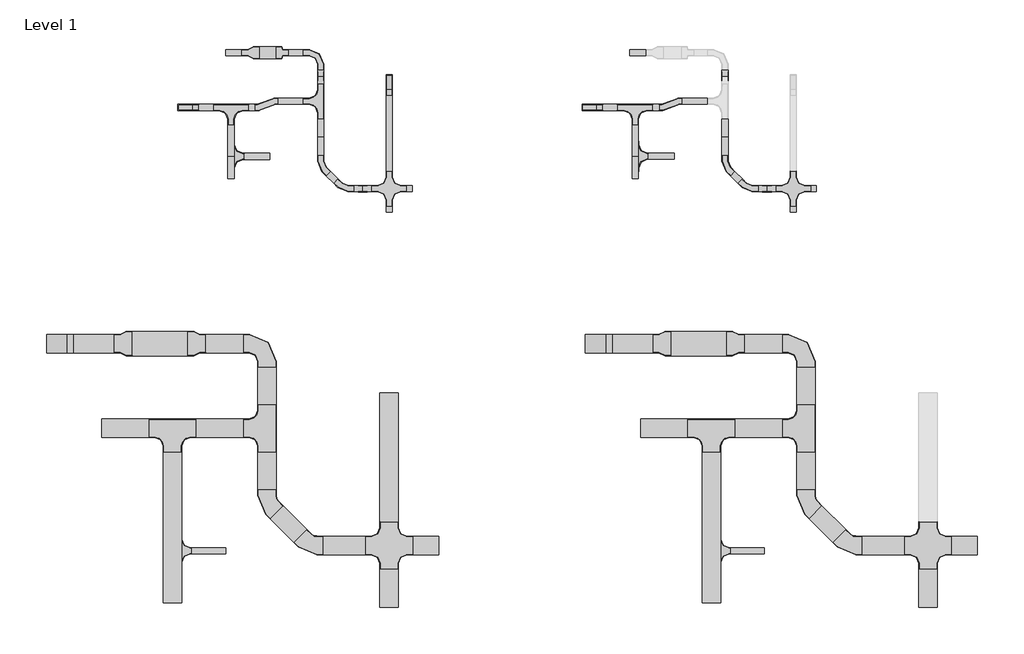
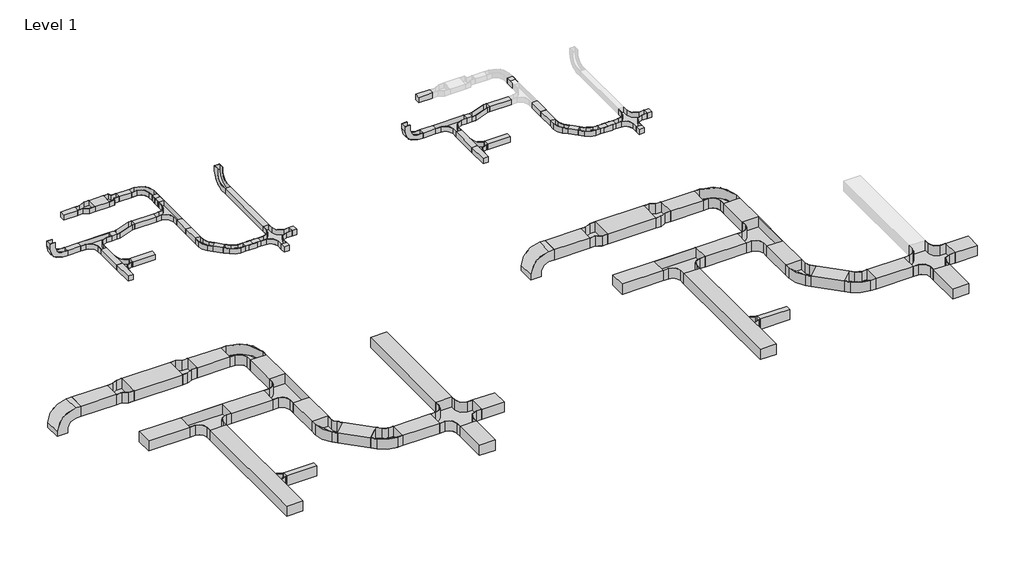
# One storey, part 1 of 7: 61 cable carrier segments, 43 cable carrier fittings.
"""IFC4 building model written with IfcOpenShell, lengths in millimetres."""

from ifc_helpers import new_model, si_unit, frame, origin, origin_with_axes, place, context, project, spatial, polyline, outline, extrude, transform, mapped, element, save
from components import cable_carrier_fitting_aaacfa07, cable_carrier_fitting_b06f5239, cable_carrier_fitting_143960b7, cable_carrier_fitting_e87cdf85, cable_carrier_fitting_c2d22de5, cable_carrier_fitting_7e9f8960, cable_carrier_fitting_43fa0a0a, cable_carrier_fitting_3771e234, cable_carrier_fitting_1d79b922, cable_carrier_fitting_d4cb8d73, cable_carrier_fitting_69659a00, cable_carrier_fitting_ed02f7b7, cable_carrier_fitting_6664680e, cable_carrier_fitting_91e97af7, cable_carrier_fitting_eaf42c59, cable_carrier_fitting_cb4cf4fc, cable_carrier_fitting_d9c8c3b4, cable_carrier_fitting_4019ad99, cable_carrier_fitting_a17deca8, cable_carrier_fitting_0d8af748, rkh100_6825da00

model = new_model("IFC4")

# Units and contexts
model_context = context("Model", 3, world=origin())
ifc_project = project(units=[si_unit("LENGTHUNIT", "METRE", prefix="MILLI")], contexts=[model_context])

# Site, building, storey
site = spatial("IfcSite", under=ifc_project)
building = spatial("IfcBuilding", under=site)
storey = spatial("IfcBuildingStorey", under=building, Name="Level 1", Elevation=0.0)

# Cable carrier fittings
placement = place(None, origin())
cable_carrier_fitting_shape = cable_carrier_fitting_aaacfa07(model_context)
element("IfcCableCarrierFitting", 1, ObjectType="BAKS_Plate_connector : LZCH100", at=placement, inside=storey, context=model_context, shape_type="MappedRepresentation", body=[
    mapped(cable_carrier_fitting_shape, transform((-17370.1659964, 14949.0221963, 50.0), x_axis=(0.0, -1.0, 0.0), y_axis=(1.0, 0.0, 0.0), z_axis=(0.0, 0.0, 1.0))),
])
element("IfcCableCarrierFitting", 2, ObjectType="BAKS_Plate_connector : LZCH100", at=placement, inside=storey, context=model_context, shape_type="MappedRepresentation", body=[
    mapped(cable_carrier_fitting_shape, transform((-16681.6917019, 13108.6669458, 50.0), x_axis=(-1.0, 0.0, 0.0), y_axis=(0.0, -1.0, 0.0), z_axis=(0.0, 0.0, 1.0))),
])
element("IfcCableCarrierFitting", 3, ObjectType="BAKS_Plate_connector : LZCH100", at=placement, inside=storey, context=model_context, shape_type="MappedRepresentation", body=[
    mapped(cable_carrier_fitting_shape, transform((-10770.1659964, 14949.0221963, 50.0), x_axis=(0.0, -1.0, 0.0), y_axis=(1.0, 0.0, 0.0), z_axis=(0.0, 0.0, 1.0))),
])
element("IfcCableCarrierFitting", 4, ObjectType="BAKS_Plate_connector : LZCH100", at=placement, inside=storey, context=model_context, shape_type="MappedRepresentation", body=[
    mapped(cable_carrier_fitting_shape, transform((-10081.6917019, 13108.6669458, 50.0), x_axis=(-1.0, 0.0, 0.0), y_axis=(0.0, -1.0, 0.0), z_axis=(0.0, 0.0, 1.0))),
])
cable_carrier_fitting_2_shape = cable_carrier_fitting_b06f5239(model_context)
element("IfcCableCarrierFitting", 5, ObjectType="BAKS_Tee_TKZD : TKZDPH200", at=placement, inside=storey, context=model_context, shape_type="MappedRepresentation", body=[
    mapped(cable_carrier_fitting_2_shape, transform((-19642.1461338, 7190.6717205, 0.0), x_axis=(0.0, 1.0, 0.0), y_axis=(-1.0, 0.0, 0.0), z_axis=(0.0, 0.0, 1.0))),
])
element("IfcCableCarrierFitting", 6, ObjectType="BAKS_Tee_TKZD : TKZDPH200", at=placement, inside=storey, context=model_context, shape_type="MappedRepresentation", body=[
    mapped(cable_carrier_fitting_2_shape, transform((-10842.1461338, 7190.6717205, 0.0), x_axis=(0.0, 1.0, 0.0), y_axis=(-1.0, 0.0, 0.0), z_axis=(0.0, 0.0, 1.0))),
])
cable_carrier_fitting_3_shape = cable_carrier_fitting_143960b7(model_context)
element("IfcCableCarrierFitting", 7, ObjectType="BAKS_Tee_TKZD : TKZDPH100", at=placement, inside=storey, context=model_context, shape_type="MappedRepresentation", body=[
    mapped(cable_carrier_fitting_3_shape, transform((-18785.25983, 13636.7469669, 50.0), x_axis=(0.0, 1.0, 0.0), y_axis=(-1.0, 0.0, 0.0), z_axis=(0.0, 0.0, 1.0))),
])
element("IfcCableCarrierFitting", 8, ObjectType="BAKS_Tee_TKZD : TKZDPH100", at=placement, inside=storey, context=model_context, shape_type="MappedRepresentation", body=[
    mapped(cable_carrier_fitting_3_shape, transform((-12185.25983, 13637.8311496, 50.0), x_axis=(0.0, 1.0, 0.0), y_axis=(-1.0, 0.0, 0.0), z_axis=(0.0, 0.0, 1.0))),
])
cable_carrier_fitting_4_shape = cable_carrier_fitting_e87cdf85(model_context)
element("IfcCableCarrierFitting", 9, ObjectType="BAKS_Tee_TKZ : TKZPH100", at=placement, inside=storey, context=model_context, shape_type="MappedRepresentation", body=[
    mapped(cable_carrier_fitting_4_shape, transform((-18835.25983, 14436.0286879, 50.0), x_axis=(1.0, 0.0, 0.0), y_axis=(0.0, 1.0, 0.0), z_axis=(0.0, 0.0, 1.0))),
])
element("IfcCableCarrierFitting", 10, ObjectType="BAKS_Tee_TKZ : TKZPH100", at=placement, inside=storey, context=model_context, shape_type="MappedRepresentation", body=[
    mapped(cable_carrier_fitting_4_shape, transform((-17370.1659964, 14536.0286879, 50.0), x_axis=(0.0, -1.0, 0.0), y_axis=(1.0, 0.0, 0.0), z_axis=(0.0, 0.0, 1.0))),
])
cable_carrier_fitting_5_shape = cable_carrier_fitting_c2d22de5(model_context)
element("IfcCableCarrierFitting", 11, ObjectType="BAKS_Tee_TKZ : TKZCH100", at=placement, inside=storey, context=model_context, shape_type="MappedRepresentation", body=[
    mapped(cable_carrier_fitting_5_shape, transform((-12235.25983, 14436.0286879, 50.0), x_axis=(1.0, 0.0, 0.0), y_axis=(0.0, 1.0, 0.0), z_axis=(0.0, 0.0, 1.0))),
])
cable_carrier_fitting_6_shape = cable_carrier_fitting_7e9f8960(model_context)
element("IfcCableCarrierFitting", 12, ObjectType="BAKS_Cross-section_CZKZ : CZKZCH100", at=placement, inside=storey, context=model_context, shape_type="MappedRepresentation", body=[
    mapped(cable_carrier_fitting_6_shape, transform((-9653.0791495, 13108.6669458, 50.0), x_axis=(1.0, 0.0, 0.0), y_axis=(0.0, 1.0, 0.0), z_axis=(0.0, 0.0, 1.0))),
])
element("IfcCableCarrierFitting", 13, ObjectType="BAKS_Cross-section_CZKZ : CZKZPH100", at=placement, inside=storey, context=model_context, shape_type="MappedRepresentation", body=[
    mapped(cable_carrier_fitting_6_shape, transform((-16253.0791495, 13108.6669458, 50.0), x_axis=(1.0, 0.0, 0.0), y_axis=(0.0, 1.0, 0.0), z_axis=(0.0, 0.0, 1.0))),
])
cable_carrier_fitting_7_shape = cable_carrier_fitting_43fa0a0a(model_context)
element("IfcCableCarrierFitting", 14, ObjectType="BAKS_Reduction-symmetrical_RKZ : RKZPH100", at=placement, inside=storey, context=model_context, shape_type="MappedRepresentation", body=[
    mapped(cable_carrier_fitting_7_shape, transform((-18365.6659964, 15332.0157047, 50.0), x_axis=(-1.0, 0.0, 0.0), y_axis=(0.0, -1.0, 0.0), z_axis=(0.0, 0.0, 1.0))),
])
cable_carrier_fitting_8_shape = cable_carrier_fitting_3771e234(model_context)
element("IfcCableCarrierFitting", 15, ObjectType="BAKS_Bypass_horizontal_left_OPZL : OPZLCH100", at=placement, inside=storey, context=model_context, shape_type="MappedRepresentation", body=[
    mapped(cable_carrier_fitting_8_shape, transform((-11655.25983, 14486.0286879, 0.0), x_axis=(1.0, 0.0, 0.0), y_axis=(0.0, 1.0, 0.0), z_axis=(0.0, 0.0, 1.0))),
])
cable_carrier_fitting_9_shape = cable_carrier_fitting_1d79b922(model_context)
element("IfcCableCarrierFitting", 16, ObjectType="BAKS_Bypass_horizontal_left_OPZL : OPZLPH100", at=placement, inside=storey, context=model_context, shape_type="MappedRepresentation", body=[
    mapped(cable_carrier_fitting_9_shape, transform((-18255.25983, 14486.0286879, 0.0), x_axis=(1.0, 0.0, 0.0), y_axis=(0.0, 1.0, 0.0), z_axis=(0.0, 0.0, 1.0))),
])
cable_carrier_fitting_10_shape = cable_carrier_fitting_d4cb8d73(model_context)
element("IfcCableCarrierFitting", 17, ObjectType="BAKS_Elbow_KKZ : KKZP/KKZMP...H100", at=placement, inside=storey, context=model_context, shape_type="MappedRepresentation", body=[
    mapped(cable_carrier_fitting_10_shape, transform((-16999.0048312, 13108.6669458, 50.0), x_axis=(0.7071067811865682, -0.7071067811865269, 0.0), y_axis=(0.7071067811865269, 0.7071067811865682, 0.0), z_axis=(0.0, 0.0, 1.0))),
])
element("IfcCableCarrierFitting", 18, ObjectType="BAKS_Elbow_KKZ : KKZP/KKZMP...H100", at=placement, inside=storey, context=model_context, shape_type="MappedRepresentation", body=[
    mapped(cable_carrier_fitting_10_shape, transform((-17370.1659964, 13479.8281111, 50.0), x_axis=(0.0, -1.0, 0.0), y_axis=(1.0, 0.0, 0.0), z_axis=(0.0, 0.0, 1.0))),
])
element("IfcCableCarrierFitting", 19, ObjectType="BAKS_Elbow_KKZ : KKZC/KKZMC...H100", at=placement, inside=storey, context=model_context, shape_type="MappedRepresentation", body=[
    mapped(cable_carrier_fitting_10_shape, transform((-10399.0048312, 13108.6669458, 50.0), x_axis=(0.7071067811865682, -0.7071067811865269, 0.0), y_axis=(0.7071067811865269, 0.7071067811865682, 0.0), z_axis=(0.0, 0.0, 1.0))),
])
element("IfcCableCarrierFitting", 20, ObjectType="BAKS_Elbow_KKZ : KKZC/KKZMC...H100", at=placement, inside=storey, context=model_context, shape_type="MappedRepresentation", body=[
    mapped(cable_carrier_fitting_10_shape, transform((-10770.1659964, 13479.8281111, 50.0), x_axis=(0.0, -1.0, 0.0), y_axis=(1.0, 0.0, 0.0), z_axis=(0.0, 0.0, 1.0))),
])
cable_carrier_fitting_11_shape = cable_carrier_fitting_69659a00(model_context)
element("IfcCableCarrierFitting", 21, ObjectType="BAKS_Elbow_KKZ : KKZP/KKZMP...H100", at=placement, inside=storey, context=model_context, shape_type="MappedRepresentation", body=[
    mapped(cable_carrier_fitting_11_shape, transform((-17370.1659964, 15332.0157047, 50.0), x_axis=(0.0, 1.0, 0.0), y_axis=(-1.0, 0.0, 0.0), z_axis=(0.0, 0.0, 1.0))),
])
cable_carrier_fitting_12_shape = cable_carrier_fitting_ed02f7b7(model_context)
element("IfcCableCarrierFitting", 22, ObjectType="BAKS_Vertical_bend_int : LZWPH100/LZWMPH100", at=placement, inside=storey, context=model_context, shape_type="MappedRepresentation", body=[
    mapped(cable_carrier_fitting_12_shape, transform((-19652.5998175, 14436.0286879, 50.0), x_axis=(-1.0, 0.0, 0.0), y_axis=(0.0, 0.0, 1.0), z_axis=(0.0, 1.0, 0.0))),
])
element("IfcCableCarrierFitting", 23, ObjectType="BAKS_Vertical_bend_int : LZWPH100/LZWMPH100", at=placement, inside=storey, context=model_context, shape_type="MappedRepresentation", body=[
    mapped(cable_carrier_fitting_12_shape, transform((-16253.0791495, 14918.5286879, 50.0), x_axis=(0.0, 1.0, 0.0), y_axis=(0.0, 0.0, 1.0), z_axis=(1.0, 0.0, 0.0))),
])
element("IfcCableCarrierFitting", 24, ObjectType="BAKS_Vertical_bend_int : LZWCH100/LZWMCH100", at=placement, inside=storey, context=model_context, shape_type="MappedRepresentation", body=[
    mapped(cable_carrier_fitting_12_shape, transform((-13052.5998175, 14436.0286879, 50.0), x_axis=(-1.0, 0.0, 0.0), y_axis=(0.0, 0.0, 1.0), z_axis=(0.0, 1.0, 0.0))),
])
cable_carrier_fitting_13_shape = cable_carrier_fitting_6664680e(model_context)
element("IfcCableCarrierFitting", 25, ObjectType="BAKS_Cross-section_CZKZ : CZKZPH200", at=placement, inside=storey, context=model_context, shape_type="MappedRepresentation", body=[
    mapped(cable_carrier_fitting_13_shape, transform((-16253.0791495, 7277.2563463, 50.0), x_axis=(1.0, 0.0, 0.0), y_axis=(0.0, 1.0, 0.0), z_axis=(0.0, 0.0, 1.0))),
])
cable_carrier_fitting_14_shape = cable_carrier_fitting_91e97af7(model_context)
element("IfcCableCarrierFitting", 26, ObjectType="BAKS_Elbow_KKZ : KKZP/KKZMP...H200", at=placement, inside=storey, context=model_context, shape_type="MappedRepresentation", body=[
    mapped(cable_carrier_fitting_14_shape, transform((-17547.1134218, 7277.2563463, 50.0), x_axis=(0.7071067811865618, -0.7071067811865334, 0.0), y_axis=(0.7071067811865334, 0.7071067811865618, 0.0), z_axis=(0.0, 0.0, 1.0))),
])
element("IfcCableCarrierFitting", 27, ObjectType="BAKS_Elbow_KKZ : KKZP/KKZMP...H200", at=placement, inside=storey, context=model_context, shape_type="MappedRepresentation", body=[
    mapped(cable_carrier_fitting_14_shape, transform((-18247.1461338, 7977.2890583, 50.0), x_axis=(0.0, -1.0, 0.0), y_axis=(1.0, 0.0, 0.0), z_axis=(0.0, 0.0, 1.0))),
])
cable_carrier_fitting_15_shape = cable_carrier_fitting_eaf42c59(model_context)
element("IfcCableCarrierFitting", 28, ObjectType="BAKS_Elbow_KKZ : KKZP/KKZMP...H200", at=placement, inside=storey, context=model_context, shape_type="MappedRepresentation", body=[
    mapped(cable_carrier_fitting_15_shape, transform((-18247.1461338, 10577.2890583, 50.0), x_axis=(0.0, 1.0, 0.0), y_axis=(-1.0, 0.0, 0.0), z_axis=(0.0, 0.0, 1.0))),
])
cable_carrier_fitting_16_shape = cable_carrier_fitting_cb4cf4fc(model_context)
element("IfcCableCarrierFitting", 29, ObjectType="BAKS_Reduction-symmetrical_RKZ : RKZPH200", at=placement, inside=storey, context=model_context, shape_type="MappedRepresentation", body=[
    mapped(cable_carrier_fitting_16_shape, transform((-19247.1461338, 10577.2890583, 50.0), x_axis=(-1.0, 0.0, 0.0), y_axis=(0.0, -1.0, 0.0), z_axis=(0.0, 0.0, 1.0))),
])
cable_carrier_fitting_17_shape = cable_carrier_fitting_d9c8c3b4(model_context)
element("IfcCableCarrierFitting", 30, ObjectType="BAKS_Reduction-symmetrical_RKZ : RKZPH200", at=placement, inside=storey, context=model_context, shape_type="MappedRepresentation", body=[
    mapped(cable_carrier_fitting_17_shape, transform((-20447.1461338, 10577.2890583, 50.0), x_axis=(-1.0, 0.0, 0.0), y_axis=(0.0, -1.0, 0.0), z_axis=(0.0, 0.0, 1.0))),
])
cable_carrier_fitting_18_shape = cable_carrier_fitting_4019ad99(model_context)
element("IfcCableCarrierFitting", 31, ObjectType="BAKS_Vertical_bend_int : LZWPH200/LZWMPH200", at=placement, inside=storey, context=model_context, shape_type="MappedRepresentation", body=[
    mapped(cable_carrier_fitting_18_shape, transform((-21747.1461338, 10577.2890583, 50.0), x_axis=(-1.0, 0.0, 0.0), y_axis=(0.0, 0.0, -1.0), z_axis=(0.0, -1.0, 0.0))),
])
element("IfcCableCarrierFitting", 32, ObjectType="BAKS_Vertical_bend_int : LZWPH200/LZWMPH200", at=placement, inside=storey, context=model_context, shape_type="MappedRepresentation", body=[
    mapped(cable_carrier_fitting_18_shape, transform((-12947.1461338, 10577.2890583, 50.0), x_axis=(-1.0, 0.0, 0.0), y_axis=(0.0, 0.0, -1.0), z_axis=(0.0, -1.0, 0.0))),
])
cable_carrier_fitting_19_shape = cable_carrier_fitting_a17deca8(model_context)
element("IfcCableCarrierFitting", 33, ObjectType="BAKS_Tee_TKZ : TKZPH200", at=placement, inside=storey, context=model_context, shape_type="MappedRepresentation", body=[
    mapped(cable_carrier_fitting_19_shape, transform((-18247.1461338, 9192.3500248, 50.0), x_axis=(0.0, -1.0, 0.0), y_axis=(1.0, 0.0, 0.0), z_axis=(0.0, 0.0, 1.0))),
])
element("IfcCableCarrierFitting", 34, ObjectType="BAKS_Tee_TKZ : TKZPH200", at=placement, inside=storey, context=model_context, shape_type="MappedRepresentation", body=[
    mapped(cable_carrier_fitting_19_shape, transform((-19792.1461338, 9192.3500248, 50.0), x_axis=(1.0, 0.0, 0.0), y_axis=(0.0, 1.0, 0.0), z_axis=(0.0, 0.0, 1.0))),
])
element("IfcCableCarrierFitting", 35, ObjectType="BAKS_Elbow_KKZ : KKZC/KKZMC...H200", at=placement, inside=storey, context=model_context, shape_type="MappedRepresentation", body=[
    mapped(cable_carrier_fitting_14_shape, transform((-8747.1134218, 7277.2563463, 50.0), x_axis=(0.7071067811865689, -0.7071067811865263, 0.0), y_axis=(0.7071067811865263, 0.7071067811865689, 0.0), z_axis=(0.0, 0.0, 1.0))),
])
element("IfcCableCarrierFitting", 36, ObjectType="BAKS_Elbow_KKZ : KKZC/KKZMC...H200", at=placement, inside=storey, context=model_context, shape_type="MappedRepresentation", body=[
    mapped(cable_carrier_fitting_14_shape, transform((-9447.1461338, 7977.2890583, 50.0), x_axis=(0.0, -1.0, 0.0), y_axis=(1.0, 0.0, 0.0), z_axis=(0.0, 0.0, 1.0))),
])
element("IfcCableCarrierFitting", 37, ObjectType="BAKS_Elbow_KKZ : KKZC/KKZMC...H200", at=placement, inside=storey, context=model_context, shape_type="MappedRepresentation", body=[
    mapped(cable_carrier_fitting_15_shape, transform((-9447.1461338, 10577.2890583, 50.0), x_axis=(0.0, 1.0, 0.0), y_axis=(-1.0, 0.0, 0.0), z_axis=(0.0, 0.0, 1.0))),
])
element("IfcCableCarrierFitting", 38, ObjectType="BAKS_Cross-section_CZKZ : CZKZCH200", at=placement, inside=storey, context=model_context, shape_type="MappedRepresentation", body=[
    mapped(cable_carrier_fitting_13_shape, transform((-7453.0791495, 7277.2563463, 50.0), x_axis=(1.0, 0.0, 0.0), y_axis=(0.0, 1.0, 0.0), z_axis=(0.0, 0.0, 1.0))),
])
cable_carrier_fitting_20_shape = cable_carrier_fitting_0d8af748(model_context)
element("IfcCableCarrierFitting", 39, ObjectType="BAKS_Tee_TKZ : TKZCH200", at=placement, inside=storey, context=model_context, shape_type="MappedRepresentation", body=[
    mapped(cable_carrier_fitting_20_shape, transform((-9447.1461338, 9192.3500248, 50.0), x_axis=(0.0, -1.0, 0.0), y_axis=(1.0, 0.0, 0.0), z_axis=(0.0, 0.0, 1.0))),
])
element("IfcCableCarrierFitting", 40, ObjectType="BAKS_Tee_TKZ : TKZCH200", at=placement, inside=storey, context=model_context, shape_type="MappedRepresentation", body=[
    mapped(cable_carrier_fitting_20_shape, transform((-10992.1461338, 9192.3500248, 50.0), x_axis=(1.0, 0.0, 0.0), y_axis=(0.0, 1.0, 0.0), z_axis=(0.0, 0.0, 1.0))),
])
element("IfcCableCarrierFitting", 41, ObjectType="BAKS_Reduction-symmetrical_RKZ : RKZCH200", at=placement, inside=storey, context=model_context, shape_type="MappedRepresentation", body=[
    mapped(cable_carrier_fitting_17_shape, transform((-11647.1461338, 10577.2890583, 50.0), x_axis=(-1.0, 0.0, 0.0), y_axis=(0.0, -1.0, 0.0), z_axis=(0.0, 0.0, 1.0))),
])
element("IfcCableCarrierFitting", 42, ObjectType="BAKS_Reduction-symmetrical_RKZ : RKZCH200", at=placement, inside=storey, context=model_context, shape_type="MappedRepresentation", body=[
    mapped(cable_carrier_fitting_16_shape, transform((-10447.1461338, 10577.2890583, 50.0), x_axis=(-1.0, 0.0, 0.0), y_axis=(0.0, -1.0, 0.0), z_axis=(0.0, 0.0, 1.0))),
])
rkh100_shape = rkh100_6825da00(model_context)
element("IfcCableCarrierFitting", 43, ObjectType="BAKS_Reduction-angular_RK : RKH100", at=placement, inside=storey, context=model_context, shape_type="MappedRepresentation", body=[
    mapped(rkh100_shape, transform((-18103.8738839, 15332.0157047, 50.0), x_axis=(1.0, 0.0, 0.0), y_axis=(0.0, 1.0, 0.0), z_axis=(0.0, 0.0, 1.0))),
])

# Cable carrier segments
element("IfcCableCarrierSegment", 44, ObjectType="BAKS - Reinforced cable tray with welded connector H100 (KZLWP)", at=placement, inside=storey, context=model_context, shape_type="SweptSolid", body=[
    extrude(outline(polyline([(-18665.6659964, 15382.0157047), (-18665.6659964, 15282.0157047), (-18924.6659964, 15282.0157047), (-18924.6659964, 15382.0157047), (-18665.6659964, 15382.0157047)])), origin_with_axes(), (0.0, 0.0, 1.0), 100.0),
])
element("IfcCableCarrierSegment", 45, ObjectType="BAKS - Reinforced cable tray with welded connector H100 (KZLWP)", at=placement, inside=storey, context=model_context, shape_type="SweptSolid", body=[
    extrude(outline(polyline([(-18365.6659964, 15232.0157047), (-18365.6659964, 15432.0157047), (-18103.8738839, 15432.0157047), (-18103.8738839, 15232.0157047), (-18365.6659964, 15232.0157047)])), origin_with_axes(), (0.0, 0.0, 1.0), 100.0),
])
element("IfcCableCarrierSegment", 46, ObjectType="BAKS - Reinforced cable tray with welded connector H100 (KZLWP)", at=placement, inside=storey, context=model_context, shape_type="SweptSolid", body=[
    extrude(outline(polyline([(-18445.25983, 14486.0286879), (-18445.25983, 14386.0286879), (-18545.25983, 14386.0286879), (-18545.25983, 14486.0286879), (-18445.25983, 14486.0286879)])), origin_with_axes(), (0.0, 0.0, 1.0), 100.0),
])
element("IfcCableCarrierSegment", 47, ObjectType="BAKS - Reinforced cable tray with welded connector H100 (KZLWP)", at=placement, inside=storey, context=model_context, shape_type="SweptSolid", body=[
    extrude(outline(polyline([(-19362.5998175, 14386.0286879), (-19362.5998175, 14486.0286879), (-19125.25983, 14486.0286879), (-19125.25983, 14386.0286879), (-19362.5998175, 14386.0286879)])), origin_with_axes(), (0.0, 0.0, 1.0), 100.0),
])
element("IfcCableCarrierSegment", 48, ObjectType="BAKS - Reinforced cable tray with welded connector H100 (KZLWP)", at=placement, inside=storey, context=model_context, shape_type="SweptSolid", body=[
    extrude(outline(polyline([(-18885.25983, 14146.0286879), (-18785.25983, 14146.0286879), (-18785.25983, 13637.2890583), (-18885.25983, 13637.2890583), (-18885.25983, 14146.0286879)])), origin_with_axes(), (0.0, 0.0, 1.0), 100.0),
])
element("IfcCableCarrierSegment", 49, ObjectType="BAKS - Reinforced cable tray with welded connector H100 (KZLWP)", at=placement, inside=storey, context=model_context, shape_type="SweptSolid", body=[
    extrude(outline(polyline([(-18885.25983, 13636.2048756), (-18785.25983, 13636.2048756), (-18785.25983, 13277.2890583), (-18885.25983, 13277.2890583), (-18885.25983, 13636.2048756)])), origin_with_axes(), (0.0, 0.0, 1.0), 100.0),
])
element("IfcCableCarrierSegment", 50, ObjectType="BAKS - Reinforced cable tray with welded connector H100 (KZLWC)", at=placement, inside=storey, context=model_context, shape_type="SweptSolid", body=[
    extrude(outline(polyline([(-12065.6659964, 15382.0157047), (-12065.6659964, 15282.0157047), (-12324.6659964, 15282.0157047), (-12324.6659964, 15382.0157047), (-12065.6659964, 15382.0157047)])), origin_with_axes(), (0.0, 0.0, 1.0), 100.0),
])
element("IfcCableCarrierSegment", 51, ObjectType="BAKS - Reinforced cable tray with welded connector H100 (KZLWC)", at=placement, inside=storey, context=model_context, shape_type="SweptSolid", body=[
    extrude(outline(polyline([(-11845.25983, 14486.0286879), (-11845.25983, 14386.0286879), (-11945.25983, 14386.0286879), (-11945.25983, 14486.0286879), (-11845.25983, 14486.0286879)])), origin_with_axes(), (0.0, 0.0, 1.0), 100.0),
])
element("IfcCableCarrierSegment", 52, ObjectType="BAKS - Reinforced cable tray with welded connector H100 (KZLWC)", at=placement, inside=storey, context=model_context, shape_type="SweptSolid", body=[
    extrude(outline(polyline([(-12762.5998175, 14386.0286879), (-12762.5998175, 14486.0286879), (-12525.25983, 14486.0286879), (-12525.25983, 14386.0286879), (-12762.5998175, 14386.0286879)])), origin_with_axes(), (0.0, 0.0, 1.0), 100.0),
])
element("IfcCableCarrierSegment", 53, ObjectType="BAKS - Reinforced cable tray with welded connector H100 (KZLWC)", at=placement, inside=storey, context=model_context, shape_type="SweptSolid", body=[
    extrude(outline(polyline([(-12285.25983, 14146.0286879), (-12185.25983, 14146.0286879), (-12185.25983, 13638.373241), (-12285.25983, 13638.373241), (-12285.25983, 14146.0286879)])), origin_with_axes(), (0.0, 0.0, 1.0), 100.0),
])
element("IfcCableCarrierSegment", 54, ObjectType="BAKS - Reinforced cable tray with welded connector H100 (KZLWC)", at=placement, inside=storey, context=model_context, shape_type="SweptSolid", body=[
    extrude(outline(polyline([(-12285.25983, 13637.2890583), (-12185.25983, 13637.2890583), (-12185.25983, 13277.2890583), (-12285.25983, 13277.2890583), (-12285.25983, 13637.2890583)])), origin_with_axes(), (0.0, 0.0, 1.0), 100.0),
])
element("IfcCableCarrierSegment", 55, ObjectType="BAKS - Reinforced cable tray with welded connector H100 (KZLWP)", at=placement, inside=storey, context=model_context, shape_type="SweptSolid", body=[
    extrude(outline(polyline([(-17420.1659964, 14246.0286879), (-17320.1659964, 14246.0286879), (-17320.1659964, 13953.2786879), (-17420.1659964, 13953.2786879), (-17420.1659964, 14246.0286879)])), origin_with_axes(), (0.0, 0.0, 1.0), 100.0),
])
element("IfcCableCarrierSegment", 56, ObjectType="BAKS - Reinforced cable tray with welded connector H100 (KZLWP)", at=placement, inside=storey, context=model_context, shape_type="SweptSolid", body=[
    extrude(outline(polyline([(-16543.0791495, 13158.6669458), (-16543.0791495, 13058.6669458), (-16681.6917019, 13058.6669458), (-16681.6917019, 13158.6669458), (-16543.0791495, 13158.6669458)])), origin_with_axes(), (0.0, 0.0, 1.0), 100.0),
])
element("IfcCableCarrierSegment", 57, ObjectType="BAKS - Reinforced cable tray with welded connector H100 (KZLWP)", at=placement, inside=storey, context=model_context, shape_type="SweptSolid", body=[
    extrude(outline(polyline([(-16682.6917019, 13158.6669458), (-16682.6917019, 13058.6669458), (-16820.3042544, 13058.6669458), (-16820.3042544, 13158.6669458), (-16682.6917019, 13158.6669458)])), origin_with_axes(), (0.0, 0.0, 1.0), 100.0),
])
element("IfcCableCarrierSegment", 58, ObjectType="BAKS - Reinforced cable tray with welded connector H100 (KZLWP)", at=placement, inside=storey, context=model_context, shape_type="SweptSolid", body=[
    extrude(outline(polyline([(-17090.0098818, 13270.3826746), (-17160.72056, 13199.6719965), (-17279.1609458, 13318.1123823), (-17208.4502677, 13388.8230604), (-17090.0098818, 13270.3826746)])), origin_with_axes(), (0.0, 0.0, 1.0), 100.0),
])
element("IfcCableCarrierSegment", 59, ObjectType="BAKS - Reinforced cable tray with welded connector H100 (KZLWP)", at=placement, inside=storey, context=model_context, shape_type="SweptSolid", body=[
    extrude(outline(polyline([(-17320.1659964, 13658.5286879), (-17420.1659964, 13658.5286879), (-17420.1659964, 13952.2786879), (-17320.1659964, 13952.2786879), (-17320.1659964, 13658.5286879)])), origin_with_axes(), (0.0, 0.0, 1.0), 100.0),
])
element("IfcCableCarrierSegment", 60, ObjectType="BAKS - Reinforced cable tray with welded connector H100 (KZLWP)", at=placement, inside=storey, context=model_context, shape_type="SweptSolid", body=[
    extrude(outline(polyline([(-17893.8738839, 15282.0157047), (-17893.8738839, 15382.0157047), (-17660.1659964, 15382.0157047), (-17660.1659964, 15282.0157047), (-17893.8738839, 15282.0157047)])), origin_with_axes(), (0.0, 0.0, 1.0), 100.0),
])
element("IfcCableCarrierSegment", 61, ObjectType="BAKS - Reinforced cable tray with welded connector H100 (KZLWP)", at=placement, inside=storey, context=model_context, shape_type="SweptSolid", body=[
    extrude(outline(polyline([(-17420.1659964, 15042.0157047), (-17320.1659964, 15042.0157047), (-17320.1659964, 14949.0221963), (-17420.1659964, 14949.0221963), (-17420.1659964, 15042.0157047)])), origin_with_axes(), (0.0, 0.0, 1.0), 100.0),
])
element("IfcCableCarrierSegment", 62, ObjectType="BAKS - Reinforced cable tray with welded connector H100 (KZLWP)", at=placement, inside=storey, context=model_context, shape_type="SweptSolid", body=[
    extrude(outline(polyline([(-18065.25983, 14486.0286879), (-18065.25983, 14586.0286879), (-17660.1659964, 14586.0286879), (-17660.1659964, 14486.0286879), (-18065.25983, 14486.0286879)])), origin_with_axes(), (0.0, 0.0, 1.0), 100.0),
])
element("IfcCableCarrierSegment", 63, ObjectType="BAKS - Reinforced cable tray with welded connector H100 (KZLWP)", at=placement, inside=storey, context=model_context, shape_type="SweptSolid", body=[
    extrude(outline(polyline([(-15878.9791495, 13158.6669458), (-15878.9791495, 13058.6669458), (-15963.0791495, 13058.6669458), (-15963.0791495, 13158.6669458), (-15878.9791495, 13158.6669458)])), origin_with_axes(), (0.0, 0.0, 1.0), 100.0),
])
element("IfcCableCarrierSegment", 64, ObjectType="BAKS - Reinforced cable tray with welded connector H100 (KZLWP)", at=placement, inside=storey, context=model_context, shape_type="SweptSolid", body=[
    extrude(outline(polyline([(-16203.0791495, 12728.6669458), (-16303.0791495, 12728.6669458), (-16303.0791495, 12818.6669458), (-16203.0791495, 12818.6669458), (-16203.0791495, 12728.6669458)])), origin_with_axes(), (0.0, 0.0, 1.0), 100.0),
])
element("IfcCableCarrierSegment", 65, ObjectType="BAKS - Reinforced cable tray with welded connector H100 (KZLWP)", at=placement, inside=storey, context=model_context, shape_type="SweptSolid", body=[
    extrude(outline(polyline([(-16303.0791495, 14628.5286879), (-16203.0791495, 14628.5286879), (-16203.0791495, 13398.6669458), (-16303.0791495, 13398.6669458), (-16303.0791495, 14628.5286879)])), origin_with_axes(), (0.0, 0.0, 1.0), 100.0),
])
element("IfcCableCarrierSegment", 66, ObjectType="BAKS - Reinforced cable tray with welded connector H100 (KZLWP)", at=placement, inside=storey, context=model_context, shape_type="SweptSolid", body=[
    extrude(outline(polyline([(-17320.1659964, 14826.0286879), (-17420.1659964, 14826.0286879), (-17420.1659964, 14948.0221963), (-17320.1659964, 14948.0221963), (-17320.1659964, 14826.0286879)])), origin_with_axes(), (0.0, 0.0, 1.0), 100.0),
])
element("IfcCableCarrierSegment", 67, ObjectType="BAKS - Reinforced cable tray with welded connector H100 (KZLWC)", at=placement, inside=storey, context=model_context, shape_type="SweptSolid", body=[
    extrude(outline(polyline([(-10820.1659964, 14246.0286879), (-10720.1659964, 14246.0286879), (-10720.1659964, 13953.2786879), (-10820.1659964, 13953.2786879), (-10820.1659964, 14246.0286879)])), origin_with_axes(), (0.0, 0.0, 1.0), 100.0),
])
element("IfcCableCarrierSegment", 68, ObjectType="BAKS - Reinforced cable tray with welded connector H100 (KZLWC)", at=placement, inside=storey, context=model_context, shape_type="SweptSolid", body=[
    extrude(outline(polyline([(-9943.0791495, 13158.6669458), (-9943.0791495, 13058.6669458), (-10081.6917019, 13058.6669458), (-10081.6917019, 13158.6669458), (-9943.0791495, 13158.6669458)])), origin_with_axes(), (0.0, 0.0, 1.0), 100.0),
])
element("IfcCableCarrierSegment", 69, ObjectType="BAKS - Reinforced cable tray with welded connector H100 (KZLWC)", at=placement, inside=storey, context=model_context, shape_type="SweptSolid", body=[
    extrude(outline(polyline([(-10082.6917019, 13158.6669458), (-10082.6917019, 13058.6669458), (-10220.3042544, 13058.6669458), (-10220.3042544, 13158.6669458), (-10082.6917019, 13158.6669458)])), origin_with_axes(), (0.0, 0.0, 1.0), 100.0),
])
element("IfcCableCarrierSegment", 70, ObjectType="BAKS - Reinforced cable tray with welded connector H100 (KZLWC)", at=placement, inside=storey, context=model_context, shape_type="SweptSolid", body=[
    extrude(outline(polyline([(-10490.0098818, 13270.3826746), (-10560.72056, 13199.6719965), (-10679.1609458, 13318.1123823), (-10608.4502677, 13388.8230604), (-10490.0098818, 13270.3826746)])), origin_with_axes(), (0.0, 0.0, 1.0), 100.0),
])
element("IfcCableCarrierSegment", 71, ObjectType="BAKS - Reinforced cable tray with welded connector H100 (KZLWC)", at=placement, inside=storey, context=model_context, shape_type="SweptSolid", body=[
    extrude(outline(polyline([(-10720.1659964, 13658.5286879), (-10820.1659964, 13658.5286879), (-10820.1659964, 13952.2786879), (-10720.1659964, 13952.2786879), (-10720.1659964, 13658.5286879)])), origin_with_axes(), (0.0, 0.0, 1.0), 100.0),
])
element("IfcCableCarrierSegment", 72, ObjectType="BAKS - Reinforced cable tray with welded connector H100 (KZLWC)", at=placement, inside=storey, context=model_context, shape_type="SweptSolid", body=[
    extrude(outline(polyline([(-10820.1659964, 15042.0157047), (-10720.1659964, 15042.0157047), (-10720.1659964, 14949.0221963), (-10820.1659964, 14949.0221963), (-10820.1659964, 15042.0157047)])), origin_with_axes(), (0.0, 0.0, 1.0), 100.0),
])
element("IfcCableCarrierSegment", 73, ObjectType="BAKS - Reinforced cable tray with welded connector H100 (KZLWC)", at=placement, inside=storey, context=model_context, shape_type="SweptSolid", body=[
    extrude(outline(polyline([(-11465.25983, 14486.0286879), (-11465.25983, 14586.0286879), (-11060.1659964, 14586.0286879), (-11060.1659964, 14486.0286879), (-11465.25983, 14486.0286879)])), origin_with_axes(), (0.0, 0.0, 1.0), 100.0),
])
element("IfcCableCarrierSegment", 74, ObjectType="BAKS - Reinforced cable tray with welded connector H100 (KZLWC)", at=placement, inside=storey, context=model_context, shape_type="SweptSolid", body=[
    extrude(outline(polyline([(-9278.9791495, 13158.6669458), (-9278.9791495, 13058.6669458), (-9363.0791495, 13058.6669458), (-9363.0791495, 13158.6669458), (-9278.9791495, 13158.6669458)])), origin_with_axes(), (0.0, 0.0, 1.0), 100.0),
])
element("IfcCableCarrierSegment", 75, ObjectType="BAKS - Reinforced cable tray with welded connector H100 (KZLWC)", at=placement, inside=storey, context=model_context, shape_type="SweptSolid", body=[
    extrude(outline(polyline([(-9603.0791495, 12728.6669458), (-9703.0791495, 12728.6669458), (-9703.0791495, 12818.6669458), (-9603.0791495, 12818.6669458), (-9603.0791495, 12728.6669458)])), origin_with_axes(), (0.0, 0.0, 1.0), 100.0),
])
element("IfcCableCarrierSegment", 76, ObjectType="BAKS - Reinforced cable tray with welded connector H100 (KZLWP)", at=placement, inside=storey, context=model_context, shape_type="SweptSolid", body=[
    extrude(outline(polyline([(-18620.17983, 13586.7469669), (-18620.17983, 13686.7469669), (-18200.17983, 13686.7469669), (-18200.17983, 13586.7469669), (-18620.17983, 13586.7469669)])), origin_with_axes(), (0.0, 0.0, 1.0), 100.0),
])
element("IfcCableCarrierSegment", 77, ObjectType="BAKS - Reinforced cable tray with welded connector H100 (KZLWC)", at=placement, inside=storey, context=model_context, shape_type="SweptSolid", body=[
    extrude(outline(polyline([(-12020.17983, 13587.8311496), (-12020.17983, 13687.8311496), (-11600.17983, 13687.8311496), (-11600.17983, 13587.8311496), (-12020.17983, 13587.8311496)])), origin_with_axes(), (0.0, 0.0, 1.0), 100.0),
])
element("IfcCableCarrierSegment", 78, ObjectType="BAKS - Reinforced cable tray H200 (KZWP)", at=placement, inside=storey, context=model_context, shape_type="SweptSolid", body=[
    extrude(outline(polyline([(-19479.1461338, 7140.6717205), (-19479.1461338, 7240.6717205), (-18917.1941338, 7240.6717205), (-18917.1941338, 7140.6717205), (-19479.1461338, 7140.6717205)])), frame((0.0, 0.0, -100.0), z_axis=(0.0, 0.0, 1.0), x_axis=(1.0, 0.0, 0.0)), (0.0, 0.0, 1.0), 200.0),
])
element("IfcCableCarrierSegment", 79, ObjectType="BAKS - Cable tray with welded connector H200 (KZLC)", at=placement, inside=storey, context=model_context, shape_type="SweptSolid", body=[
    extrude(outline(polyline([(-10679.1461338, 7140.6717205), (-10679.1461338, 7240.6717205), (-10130.2421338, 7240.6717205), (-10130.2421338, 7140.6717205), (-10679.1461338, 7140.6717205)])), frame((0.0, 0.0, -100.0), z_axis=(0.0, 0.0, 1.0), x_axis=(1.0, 0.0, 0.0)), (0.0, 0.0, 1.0), 200.0),
])
element("IfcCableCarrierSegment", 80, ObjectType="BAKS - Reinforced cable tray with welded connector H200 (KZLWP)", at=placement, inside=storey, context=model_context, shape_type="SweptSolid", body=[
    extrude(outline(polyline([(-16643.0791495, 7427.2563463), (-16643.0791495, 7127.2563463), (-17326.9914888, 7127.2563463), (-17326.9914888, 7427.2563463), (-16643.0791495, 7427.2563463)])), frame((0.0, 0.0, -50.0), z_axis=(0.0, 0.0, 1.0), x_axis=(1.0, 0.0, 0.0)), (0.0, 0.0, 1.0), 200.0),
])
element("IfcCableCarrierSegment", 81, ObjectType="BAKS - Reinforced cable tray with welded connector H200 (KZLWP)", at=placement, inside=storey, context=model_context, shape_type="SweptSolid", body=[
    extrude(outline(polyline([(-17596.6971162, 7538.972075), (-17808.8291506, 7326.8400407), (-18197.5624394, 7715.5733295), (-17985.4304051, 7927.7053639), (-17596.6971162, 7538.972075)])), frame((0.0, 0.0, -50.0), z_axis=(0.0, 0.0, 1.0), x_axis=(1.0, 0.0, 0.0)), (0.0, 0.0, 1.0), 200.0),
])
element("IfcCableCarrierSegment", 82, ObjectType="BAKS - Reinforced cable tray with welded connector H200 (KZLWP)", at=placement, inside=storey, context=model_context, shape_type="SweptSolid", body=[
    extrude(outline(polyline([(-18097.1461338, 8197.4109914), (-18397.1461338, 8197.4109914), (-18397.1461338, 8802.3500248), (-18097.1461338, 8802.3500248), (-18097.1461338, 8197.4109914)])), frame((0.0, 0.0, -50.0), z_axis=(0.0, 0.0, 1.0), x_axis=(1.0, 0.0, 0.0)), (0.0, 0.0, 1.0), 200.0),
])
element("IfcCableCarrierSegment", 83, ObjectType="BAKS - Reinforced cable tray with welded connector H200 (KZLWP)", at=placement, inside=storey, context=model_context, shape_type="SweptSolid", body=[
    extrude(outline(polyline([(-18637.1461338, 9342.3500248), (-18637.1461338, 9042.3500248), (-19402.1461338, 9042.3500248), (-19402.1461338, 9342.3500248), (-18637.1461338, 9342.3500248)])), frame((0.0, 0.0, -50.0), z_axis=(0.0, 0.0, 1.0), x_axis=(1.0, 0.0, 0.0)), (0.0, 0.0, 1.0), 200.0),
])
element("IfcCableCarrierSegment", 84, ObjectType="BAKS - Reinforced cable tray with welded connector H200 (KZLWP)", at=placement, inside=storey, context=model_context, shape_type="SweptSolid", body=[
    extrude(outline(polyline([(-20747.1461338, 10727.2890583), (-20747.1461338, 10427.2890583), (-21407.1461338, 10427.2890583), (-21407.1461338, 10727.2890583), (-20747.1461338, 10727.2890583)])), frame((0.0, 0.0, -50.0), z_axis=(0.0, 0.0, 1.0), x_axis=(1.0, 0.0, 0.0)), (0.0, 0.0, 1.0), 200.0),
])
element("IfcCableCarrierSegment", 85, ObjectType="BAKS - Reinforced cable tray with welded connector H200 (KZLWP)", at=placement, inside=storey, context=model_context, shape_type="SweptSolid", body=[
    extrude(outline(polyline([(-16103.0791495, 6268.7487616), (-16403.0791495, 6268.7487616), (-16403.0791495, 6887.2563463), (-16103.0791495, 6887.2563463), (-16103.0791495, 6268.7487616)])), frame((0.0, 0.0, -50.0), z_axis=(0.0, 0.0, 1.0), x_axis=(1.0, 0.0, 0.0)), (0.0, 0.0, 1.0), 200.0),
])
element("IfcCableCarrierSegment", 86, ObjectType="BAKS - Reinforced cable tray with welded connector H200 (KZLWP)", at=placement, inside=storey, context=model_context, shape_type="SweptSolid", body=[
    extrude(outline(polyline([(-15447.1134218, 7427.2563463), (-15447.1134218, 7127.2563463), (-15863.0791495, 7127.2563463), (-15863.0791495, 7427.2563463), (-15447.1134218, 7427.2563463)])), frame((0.0, 0.0, -50.0), z_axis=(0.0, 0.0, 1.0), x_axis=(1.0, 0.0, 0.0)), (0.0, 0.0, 1.0), 200.0),
])
element("IfcCableCarrierSegment", 87, ObjectType="BAKS - Reinforced cable tray with welded connector H200 (KZLWP)", at=placement, inside=storey, context=model_context, shape_type="SweptSolid", body=[
    extrude(outline(polyline([(-16403.0791495, 9768.7487616), (-16103.0791495, 9768.7487616), (-16103.0791495, 7667.2563463), (-16403.0791495, 7667.2563463), (-16403.0791495, 9768.7487616)])), frame((0.0, 0.0, -50.0), z_axis=(0.0, 0.0, 1.0), x_axis=(1.0, 0.0, 0.0)), (0.0, 0.0, 1.0), 200.0),
])
element("IfcCableCarrierSegment", 88, ObjectType="BAKS - Reinforced cable tray with welded connector H200 (KZLWP)", at=placement, inside=storey, context=model_context, shape_type="SweptSolid", body=[
    extrude(outline(polyline([(-20947.1461338, 9042.3500248), (-20947.1461338, 9342.3500248), (-20182.1461338, 9342.3500248), (-20182.1461338, 9042.3500248), (-20947.1461338, 9042.3500248)])), frame((0.0, 0.0, -50.0), z_axis=(0.0, 0.0, 1.0), x_axis=(1.0, 0.0, 0.0)), (0.0, 0.0, 1.0), 200.0),
])
element("IfcCableCarrierSegment", 89, ObjectType="BAKS - Reinforced cable tray with welded connector H200 (KZLWP)", at=placement, inside=storey, context=model_context, shape_type="SweptSolid", body=[
    extrude(outline(polyline([(-19642.1461338, 6342.3500248), (-19942.1461338, 6342.3500248), (-19942.1461338, 8802.3500248), (-19642.1461338, 8802.3500248), (-19642.1461338, 6342.3500248)])), frame((0.0, 0.0, -50.0), z_axis=(0.0, 0.0, 1.0), x_axis=(1.0, 0.0, 0.0)), (0.0, 0.0, 1.0), 200.0),
])
element("IfcCableCarrierSegment", 90, ObjectType="BAKS - Reinforced cable tray with welded connector H200 (KZLWP)", at=placement, inside=storey, context=model_context, shape_type="SweptSolid", body=[
    extrude(outline(polyline([(-18097.1461338, 9582.3500248), (-18397.1461338, 9582.3500248), (-18397.1461338, 10187.2890583), (-18097.1461338, 10187.2890583), (-18097.1461338, 9582.3500248)])), frame((0.0, 0.0, -50.0), z_axis=(0.0, 0.0, 1.0), x_axis=(1.0, 0.0, 0.0)), (0.0, 0.0, 1.0), 200.0),
])
element("IfcCableCarrierSegment", 91, ObjectType="BAKS - Reinforced cable tray with welded connector H200 (KZLWP)", at=placement, inside=storey, context=model_context, shape_type="SweptSolid", body=[
    extrude(outline(polyline([(-18637.1461338, 10727.2890583), (-18637.1461338, 10427.2890583), (-19247.1461338, 10427.2890583), (-19247.1461338, 10727.2890583), (-18637.1461338, 10727.2890583)])), frame((0.0, 0.0, -50.0), z_axis=(0.0, 0.0, 1.0), x_axis=(1.0, 0.0, 0.0)), (0.0, 0.0, 1.0), 200.0),
])
element("IfcCableCarrierSegment", 92, ObjectType="BAKS - Reinforced cable tray with welded connector H200 (KZLWP)", at=placement, inside=storey, context=model_context, shape_type="SweptSolid", body=[
    extrude(outline(polyline([(-19547.1461338, 10777.2890583), (-19547.1461338, 10377.2890583), (-20447.1461338, 10377.2890583), (-20447.1461338, 10777.2890583), (-19547.1461338, 10777.2890583)])), frame((0.0, 0.0, -50.0), z_axis=(0.0, 0.0, 1.0), x_axis=(1.0, 0.0, 0.0)), (0.0, 0.0, 1.0), 200.0),
])
element("IfcCableCarrierSegment", 93, ObjectType="BAKS - Reinforced cable tray with welded connector H200 (KZLWC)", at=placement, inside=storey, context=model_context, shape_type="SweptSolid", body=[
    extrude(outline(polyline([(-7843.0791495, 7427.2563463), (-7843.0791495, 7127.2563463), (-8526.9914888, 7127.2563463), (-8526.9914888, 7427.2563463), (-7843.0791495, 7427.2563463)])), frame((0.0, 0.0, -50.0), z_axis=(0.0, 0.0, 1.0), x_axis=(1.0, 0.0, 0.0)), (0.0, 0.0, 1.0), 200.0),
])
element("IfcCableCarrierSegment", 94, ObjectType="BAKS - Reinforced cable tray with welded connector H200 (KZLWC)", at=placement, inside=storey, context=model_context, shape_type="SweptSolid", body=[
    extrude(outline(polyline([(-8796.6971162, 7538.972075), (-9008.8291506, 7326.8400407), (-9397.5624394, 7715.5733295), (-9185.4304051, 7927.7053639), (-8796.6971162, 7538.972075)])), frame((0.0, 0.0, -50.0), z_axis=(0.0, 0.0, 1.0), x_axis=(1.0, 0.0, 0.0)), (0.0, 0.0, 1.0), 200.0),
])
element("IfcCableCarrierSegment", 95, ObjectType="BAKS - Reinforced cable tray with welded connector H200 (KZLWC)", at=placement, inside=storey, context=model_context, shape_type="SweptSolid", body=[
    extrude(outline(polyline([(-9297.1461338, 8197.4109914), (-9597.1461338, 8197.4109914), (-9597.1461338, 8802.3500248), (-9297.1461338, 8802.3500248), (-9297.1461338, 8197.4109914)])), frame((0.0, 0.0, -50.0), z_axis=(0.0, 0.0, 1.0), x_axis=(1.0, 0.0, 0.0)), (0.0, 0.0, 1.0), 200.0),
])
element("IfcCableCarrierSegment", 96, ObjectType="BAKS - Reinforced cable tray with welded connector H200 (KZLWC)", at=placement, inside=storey, context=model_context, shape_type="SweptSolid", body=[
    extrude(outline(polyline([(-9837.1461338, 9342.3500248), (-9837.1461338, 9042.3500248), (-10602.1461338, 9042.3500248), (-10602.1461338, 9342.3500248), (-9837.1461338, 9342.3500248)])), frame((0.0, 0.0, -50.0), z_axis=(0.0, 0.0, 1.0), x_axis=(1.0, 0.0, 0.0)), (0.0, 0.0, 1.0), 200.0),
])
element("IfcCableCarrierSegment", 97, ObjectType="BAKS - Reinforced cable tray with welded connector H200 (KZLWC)", at=placement, inside=storey, context=model_context, shape_type="SweptSolid", body=[
    extrude(outline(polyline([(-11947.1461338, 10727.2890583), (-11947.1461338, 10427.2890583), (-12607.1461338, 10427.2890583), (-12607.1461338, 10727.2890583), (-11947.1461338, 10727.2890583)])), frame((0.0, 0.0, -50.0), z_axis=(0.0, 0.0, 1.0), x_axis=(1.0, 0.0, 0.0)), (0.0, 0.0, 1.0), 200.0),
])
element("IfcCableCarrierSegment", 98, ObjectType="BAKS - Reinforced cable tray with welded connector H200 (KZLWC)", at=placement, inside=storey, context=model_context, shape_type="SweptSolid", body=[
    extrude(outline(polyline([(-7303.0791495, 6268.7487616), (-7603.0791495, 6268.7487616), (-7603.0791495, 6887.2563463), (-7303.0791495, 6887.2563463), (-7303.0791495, 6268.7487616)])), frame((0.0, 0.0, -50.0), z_axis=(0.0, 0.0, 1.0), x_axis=(1.0, 0.0, 0.0)), (0.0, 0.0, 1.0), 200.0),
])
element("IfcCableCarrierSegment", 99, ObjectType="BAKS - Reinforced cable tray with welded connector H200 (KZLWC)", at=placement, inside=storey, context=model_context, shape_type="SweptSolid", body=[
    extrude(outline(polyline([(-6647.1134218, 7427.2563463), (-6647.1134218, 7127.2563463), (-7063.0791495, 7127.2563463), (-7063.0791495, 7427.2563463), (-6647.1134218, 7427.2563463)])), frame((0.0, 0.0, -50.0), z_axis=(0.0, 0.0, 1.0), x_axis=(1.0, 0.0, 0.0)), (0.0, 0.0, 1.0), 200.0),
])
element("IfcCableCarrierSegment", 100, ObjectType="BAKS - Reinforced cable tray with welded connector H200 (KZLWC)", at=placement, inside=storey, context=model_context, shape_type="SweptSolid", body=[
    extrude(outline(polyline([(-12147.1461338, 9042.3500248), (-12147.1461338, 9342.3500248), (-11382.1461338, 9342.3500248), (-11382.1461338, 9042.3500248), (-12147.1461338, 9042.3500248)])), frame((0.0, 0.0, -50.0), z_axis=(0.0, 0.0, 1.0), x_axis=(1.0, 0.0, 0.0)), (0.0, 0.0, 1.0), 200.0),
])
element("IfcCableCarrierSegment", 101, ObjectType="BAKS - Reinforced cable tray with welded connector H200 (KZLWC)", at=placement, inside=storey, context=model_context, shape_type="SweptSolid", body=[
    extrude(outline(polyline([(-10842.1461338, 6342.3500248), (-11142.1461338, 6342.3500248), (-11142.1461338, 8802.3500248), (-10842.1461338, 8802.3500248), (-10842.1461338, 6342.3500248)])), frame((0.0, 0.0, -50.0), z_axis=(0.0, 0.0, 1.0), x_axis=(1.0, 0.0, 0.0)), (0.0, 0.0, 1.0), 200.0),
])
element("IfcCableCarrierSegment", 102, ObjectType="BAKS - Reinforced cable tray with welded connector H200 (KZLWC)", at=placement, inside=storey, context=model_context, shape_type="SweptSolid", body=[
    extrude(outline(polyline([(-9297.1461338, 9582.3500248), (-9597.1461338, 9582.3500248), (-9597.1461338, 10187.2890583), (-9297.1461338, 10187.2890583), (-9297.1461338, 9582.3500248)])), frame((0.0, 0.0, -50.0), z_axis=(0.0, 0.0, 1.0), x_axis=(1.0, 0.0, 0.0)), (0.0, 0.0, 1.0), 200.0),
])
element("IfcCableCarrierSegment", 103, ObjectType="BAKS - Reinforced cable tray with welded connector H200 (KZLWC)", at=placement, inside=storey, context=model_context, shape_type="SweptSolid", body=[
    extrude(outline(polyline([(-9837.1461338, 10727.2890583), (-9837.1461338, 10427.2890583), (-10447.1461338, 10427.2890583), (-10447.1461338, 10727.2890583), (-9837.1461338, 10727.2890583)])), frame((0.0, 0.0, -50.0), z_axis=(0.0, 0.0, 1.0), x_axis=(1.0, 0.0, 0.0)), (0.0, 0.0, 1.0), 200.0),
])
element("IfcCableCarrierSegment", 104, ObjectType="BAKS - Reinforced cable tray with welded connector H200 (KZLWC)", at=placement, inside=storey, context=model_context, shape_type="SweptSolid", body=[
    extrude(outline(polyline([(-10747.1461338, 10777.2890583), (-10747.1461338, 10377.2890583), (-11647.1461338, 10377.2890583), (-11647.1461338, 10777.2890583), (-10747.1461338, 10777.2890583)])), frame((0.0, 0.0, -50.0), z_axis=(0.0, 0.0, 1.0), x_axis=(1.0, 0.0, 0.0)), (0.0, 0.0, 1.0), 200.0),
])

save(model, "model.ifc")
